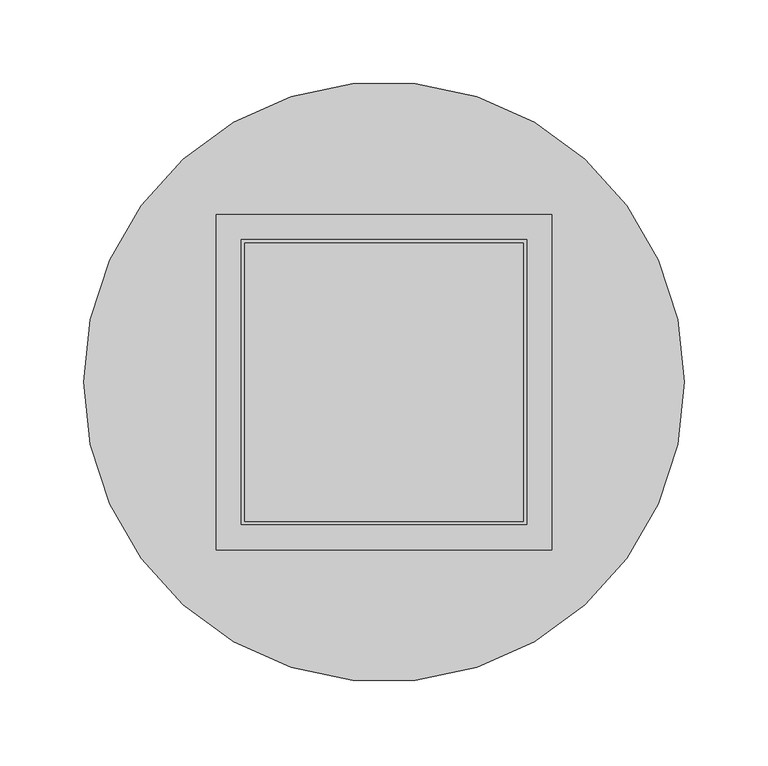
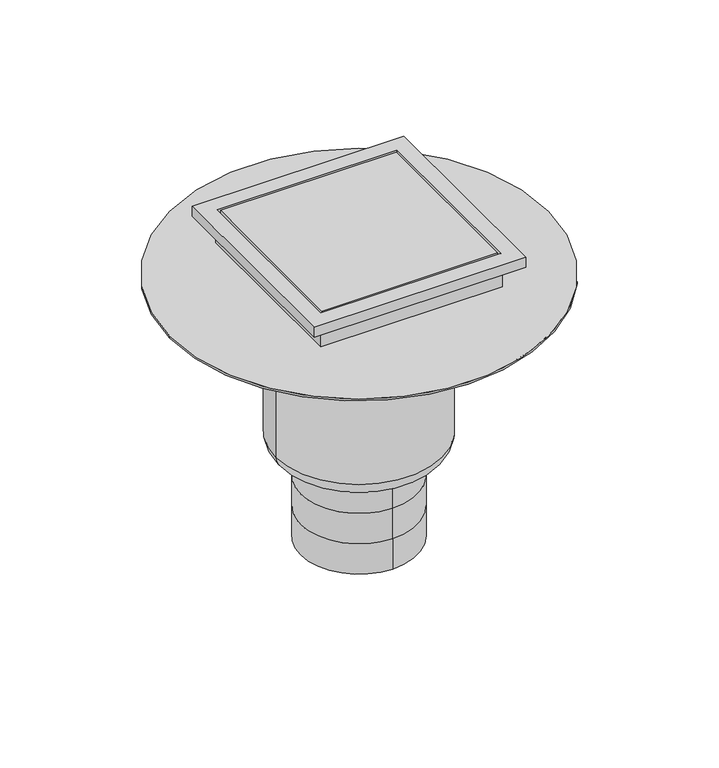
"""IFC4 building model written with IfcOpenShell, lengths in millimetres: sanitary terminal geometry, PF_ST_UN_Siphon telescopics epur hygiene first_ACO : 200 x 200 telescopic hygenic gully 157mm outlet DN110."""

from ifc_helpers import new_model, si_unit, point, frame, origin, origin_2d, place, context, project, spatial, polyline, circle_curve, ellipse_curve, trimmed, segment, composite_curve, outline, extrude, faceted_brep, source, transform, mapped, element, save
from ifc_brep_helpers import plane_surface, cylinder_surface, revolved_surface, advanced_brep


def sanitary_terminal_cf138fa0(model_context):
    return source(origin(), model_context, "Body", "SolidModel", [
        advanced_brep(
        [(0.0, -55.0, -424.0), (0.0, 55.0, -424.0), (0.0, -55.0, -393.6666667), (0.0, 55.0, -393.6666667), (0.0, -55.0, -363.3333333), (0.0, 55.0, -363.3333333), (0.0, 55.0, -333.0), (55.0, 0.0, -333.0), (0.0, -55.0, -333.0), (-55.0, 0.0, -333.0), (78.5, 0.0, -318.0), (-78.5, 0.0, -318.0), (-78.5, 0.0, -164.0), (78.5, 0.0, -164.0), (63.5, 0.0, -333.0), (-63.5, 0.0, -333.0), (-179.0, 0.0, -162.0), (179.0, 0.0, -162.0), (-179.0, 0.0, -164.0), (179.0, 0.0, -164.0)],
        [
            (0, 1, circle_curve(frame((0.0, 0.0, -424.0), z_axis=(0.0, 0.0, -1.0), x_axis=(0.0, 1.0, 0.0)), 55.0)),
            (1, 0, circle_curve(frame((0.0, 0.0, -424.0), z_axis=(0.0, 0.0, -1.0), x_axis=(0.0, 1.0, 0.0)), 55.0)),
            (0, 2),
            (2, 3, circle_curve(frame((0.0, 0.0, -393.6666667), z_axis=(0.0, 0.0, -1.0), x_axis=(0.0, 1.0, 0.0)), 55.0)),
            (3, 1),
            (3, 2, circle_curve(frame((0.0, 0.0, -393.6666667), z_axis=(0.0, 0.0, -1.0), x_axis=(0.0, 1.0, 0.0)), 55.0)),
            (4, 2),
            (3, 5),
            (5, 4, circle_curve(frame((0.0, 0.0, -363.3333333), z_axis=(0.0, 0.0, -1.0), x_axis=(1.0, 0.0, 0.0)), 55.0)),
            (4, 5, circle_curve(frame((0.0, 0.0, -363.3333333), z_axis=(0.0, 0.0, -1.0), x_axis=(-1.0, 0.0, 0.0)), 55.0)),
            (5, 6),
            (6, 7, circle_curve(frame((0.0, 0.0, -333.0), z_axis=(0.0, 0.0, -1.0), x_axis=(0.0, 1.0, 0.0)), 55.0)),
            (7, 8, circle_curve(frame((0.0, 0.0, -333.0), z_axis=(0.0, 0.0, -1.0), x_axis=(0.0, 1.0, 0.0)), 55.0)),
            (8, 4),
            (8, 9, circle_curve(frame((0.0, 0.0, -333.0), z_axis=(0.0, 0.0, -1.0), x_axis=(0.0, 1.0, 0.0)), 55.0)),
            (9, 6, circle_curve(frame((0.0, 0.0, -333.0), z_axis=(0.0, 0.0, -1.0), x_axis=(0.0, 1.0, 0.0)), 55.0)),
            (10, 11, circle_curve(frame((0.0, 0.0, -318.0), z_axis=(0.0, 0.0, 1.0), x_axis=(-1.0, 0.0, 0.0)), 78.5)),
            (11, 12),
            (12, 13, circle_curve(frame((0.0, 0.0, -164.0), z_axis=(0.0, 0.0, -1.0), x_axis=(-1.0, 0.0, 0.0)), 78.5)),
            (13, 10),
            (11, 10, circle_curve(frame((0.0, 0.0, -318.0), z_axis=(0.0, 0.0, 1.0), x_axis=(-1.0, 0.0, 0.0)), 78.5)),
            (13, 12, circle_curve(frame((0.0, 0.0, -164.0), z_axis=(0.0, 0.0, -1.0), x_axis=(-1.0, 0.0, 0.0)), 78.5)),
            (10, 14, circle_curve(frame((63.5, 0.0, -318.0), z_axis=(0.0, 1.0, 0.0), x_axis=(-1.0, 0.0, 0.0)), 15.0)),
            (14, 15, circle_curve(frame((0.0, 0.0, -333.0), z_axis=(0.0, 0.0, 1.0), x_axis=(-1.0, 0.0, 0.0)), 63.5)),
            (15, 11, circle_curve(frame((-63.5, 0.0, -318.0), z_axis=(0.0, 1.0, 0.0), x_axis=(1.0, 0.0, 0.0)), 15.0)),
            (15, 14, circle_curve(frame((0.0, 0.0, -333.0), z_axis=(0.0, 0.0, 1.0), x_axis=(-1.0, 0.0, 0.0)), 63.5)),
            (14, 7),
            (9, 15),
            (16, 17, circle_curve(frame((0.0, 0.0, -162.0), z_axis=(0.0, 0.0, 1.0), x_axis=(1.0, 0.0, 0.0)), 179.0)),
            (17, 16, circle_curve(frame((0.0, 0.0, -162.0), z_axis=(0.0, 0.0, 1.0), x_axis=(1.0, 0.0, 0.0)), 179.0)),
            (18, 19, circle_curve(frame((0.0, 0.0, -164.0), z_axis=(0.0, 0.0, 1.0), x_axis=(1.0, 0.0, 0.0)), 179.0)),
            (19, 17),
            (16, 18),
            (19, 18, circle_curve(frame((0.0, 0.0, -164.0), z_axis=(0.0, 0.0, 1.0), x_axis=(1.0, 0.0, 0.0)), 179.0)),
        ],
        [
            plane_surface(frame((0.0, 55.0, -424.0), z_axis=(0.0, 0.0, -1.0), x_axis=(1.0, 0.0, 0.0))),
            cylinder_surface(frame((0.0, 0.0, -393.6666667), z_axis=(0.0, 0.0, -1.0), x_axis=(0.0, 1.0, 0.0)), 55.0),
            cylinder_surface(frame((0.0, 0.0, -363.3333333), z_axis=(0.0, 0.0, -1.0), x_axis=(1.0, 0.0, 0.0)), 55.0),
            cylinder_surface(frame((0.0, 0.0, -363.3333333), z_axis=(0.0, 0.0, -1.0), x_axis=(-1.0, 0.0, 0.0)), 55.0),
            cylinder_surface(frame((0.0, 0.0, -333.0), z_axis=(0.0, 0.0, -1.0), x_axis=(0.0, 1.0, 0.0)), 55.0),
            cylinder_surface(frame((0.0, 0.0, -102.0), z_axis=(0.0, 0.0, -1.0), x_axis=(-1.0, 0.0, 0.0)), 78.5),
            revolved_surface(trimmed(ellipse_curve(frame((-63.5, 0.0, -318.0), z_axis=(0.0, -1.0, 0.0), x_axis=(1.0, 0.0, 0.0)), 15.0, 15.0), [point((-78.5, 0.0, -318.0))], [point((-63.5, 0.0, -333.0))], True, "CARTESIAN"), (0.0, 0.0, -102.0), (0.0, 0.0, -1.0)),
            plane_surface(frame((0.0, 0.0, -333.0), z_axis=(0.0, 0.0, -1.0), x_axis=(-1.0, 0.0, 0.0))),
            plane_surface(frame((179.0, 0.0, -162.0), z_axis=(0.0, 0.0, 1.0), x_axis=(0.0, 1.0, 0.0))),
            cylinder_surface(frame((0.0, 0.0, -164.0), z_axis=(0.0, 0.0, 1.0), x_axis=(1.0, 0.0, 0.0)), 179.0),
            plane_surface(frame((179.0, 0.0, -164.0), z_axis=(0.0, 0.0, -1.0), x_axis=(0.0, -1.0, 0.0))),
        ],
        [
            (0, [[1, 2]]),
            (1, [[-1, 3, 4, 5]]),
            (1, [[-2, -5, 6, -3]]),
            (2, [[7, -6, 8, 9]]),
            (3, [[-7, 10, -8, -4]]),
            (4, [[11, 12, 13, 14, -9]]),
            (4, [[-11, -10, -14, 15, 16]]),
            (5, [[17, 18, 19, 20]]),
            (5, [[-18, 21, -20, 22]]),
            (6, [[-17, 23, 24, 25]]),
            (6, [[-21, -25, 26, -23]]),
            (7, [[-24, 27, -12, -16, 28]]),
            (7, [[-26, -28, -15, -13, -27]]),
            (8, [[29, 30]]),
            (9, [[31, 32, -29, 33]]),
            (9, [[34, -33, -30, -32]]),
            (10, [[-34, -31], [-19, -22]]),
        ],
    ),
        extrude(outline(composite_curve([segment(trimmed(circle_curve(origin_2d(), 71.5), [point((-71.5, 0.0))], [point((71.5, 0.0))], False, "CARTESIAN"), True, "CONTINUOUS"), segment(trimmed(circle_curve(origin_2d(), 71.5), [point((71.5, 0.0))], [point((-71.5, 0.0))], False, "CARTESIAN"), True, "CONTINUOUS")], self_intersect=False)), frame((0.0, 0.0, -210.0), z_axis=(0.0, 0.0, 1.0), x_axis=(1.0, 0.0, 0.0)), (0.0, 0.0, 1.0), 57.0),
        faceted_brep([(100.0, 100.0, -130.0), (100.0, 100.0, -120.0), (100.0, -100.0, -120.0), (100.0, -100.0, -130.0), (86.0, 86.0, -153.0), (86.0, 86.0, -130.0), (86.0, -86.0, -130.0), (86.0, -86.0, -153.0), (85.0, -85.0, -120.0), (85.0, 85.0, -120.0), (85.0, 85.0, -143.0), (85.0, -85.0, -143.0), (-100.0, -100.0, -120.0), (-100.0, -100.0, -130.0), (-86.0, -86.0, -130.0), (-86.0, -86.0, -153.0), (-85.0, -85.0, -120.0), (-85.0, -85.0, -143.0), (-100.0, 100.0, -120.0), (-100.0, 100.0, -130.0), (-86.0, 86.0, -130.0), (-86.0, 86.0, -153.0), (-85.0, 85.0, -120.0), (-85.0, 85.0, -143.0)], [[[0, 1, 2, 3]], [[4, 5, 6, 7]], [[8, 9, 10, 11]], [[3, 2, 12, 13]], [[7, 6, 14, 15]], [[16, 8, 11, 17]], [[13, 12, 18, 19]], [[15, 14, 20, 21]], [[22, 16, 17, 23]], [[2, 1, 18, 12], [9, 8, 16, 22]], [[1, 0, 19, 18]], [[0, 3, 13, 19], [6, 5, 20, 14]], [[5, 4, 21, 20]], [[4, 7, 15, 21]], [[9, 22, 23, 10]], [[11, 10, 23, 17]]]),
        extrude(outline(polyline([(83.0, 83.0), (83.0, -83.0), (-83.0, -83.0), (-83.0, 83.0), (83.0, 83.0)])), frame((0.0, 0.0, -143.0), z_axis=(0.0, 0.0, 1.0), x_axis=(1.0, 0.0, 0.0)), (0.0, 0.0, 1.0), 23.0),
    ])


if __name__ == "__main__":
    model = new_model("IFC4")
    model_context = context("Model", 3, world=origin())
    ifc_project = project(units=[si_unit("LENGTHUNIT", "METRE", prefix="MILLI")], contexts=[model_context])
    site = spatial("IfcSite", under=ifc_project)
    building = spatial("IfcBuilding", under=site)
    placement = place(None, origin())
    sanitary_terminal_shape = sanitary_terminal_cf138fa0(model_context)
    element("IfcSanitaryTerminal", 1, ObjectType="PF_ST_UN_Siphon telescopics epur hygiene first_ACO : 200 x 200 telescopic hygenic gully 157mm outlet DN110", at=placement, inside=building, context=model_context, shape_type="MappedRepresentation", body=[
        mapped(sanitary_terminal_shape, transform((0.0, 0.0, 0.0), x_axis=(1.0, 0.0, 0.0), y_axis=(0.0, 1.0, 0.0), z_axis=(0.0, 0.0, 1.0))),
    ])
    save(model, "model.ifc")
